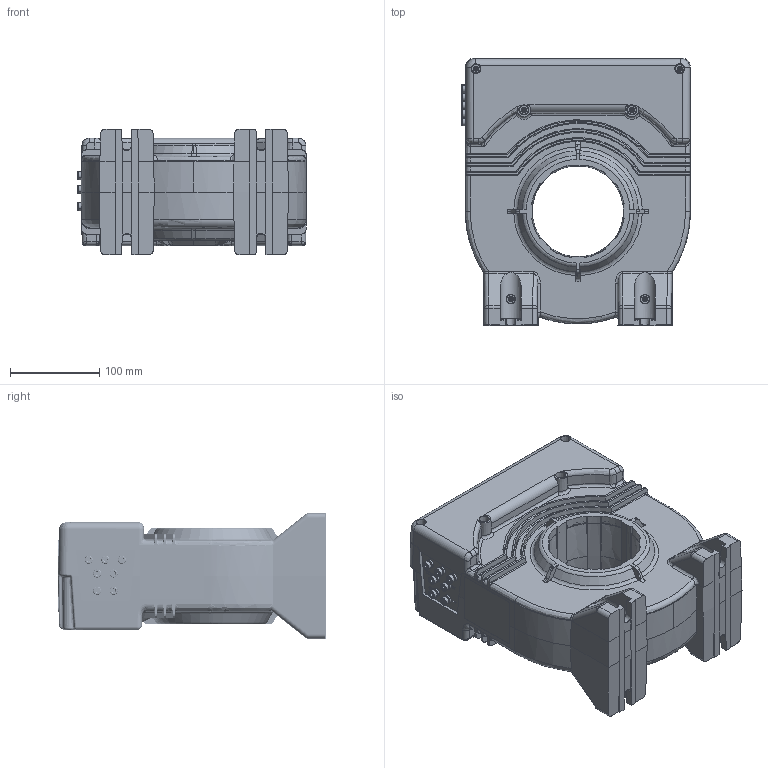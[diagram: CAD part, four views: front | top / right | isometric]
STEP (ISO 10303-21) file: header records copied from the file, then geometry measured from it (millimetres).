
FILE_DESCRIPTION(('CoCreate Modeling STEP Export'),'2;1');
FILE_NAME('ITC 4000-S black box.stp','2012-02-07T16:38:15',(''),(''),'CoCreate Modeling STEP processor for AP214 (Solid Model)','CoCreate Modeling 17.00A 17-Jun-2010 (C) Parametric Technology GmbH','');
FILE_SCHEMA(('AUTOMOTIVE_DESIGN { 1 0 10303 214 1 1 1 1 }'));
Products named in the file (12): PCB.1.black_box; inserted_screwi_KF2_M5.b; mesure; negatif; positif; valid; WASHER_M5.6; 0V1; sortie_test_winding; vis_CHc-M5x10.2; bornes_M5_Class0.5_test_winding_black_box; BLACK_BOX_ITC4000
Assembly tree (29 placements, depth 4):
  BLACK_BOX_ITC4000
    bornes_M5_Class0.5_test_winding_black_box
      WASHER_M5.6  x7
      vis_CHc-M5x10.2  x7
      sortie_test_winding
        inserted_screwi_KF2_M5.b  x2
      0V1
        inserted_screwi_KF2_M5.b
      valid
        inserted_screwi_KF2_M5.b
      positif
        inserted_screwi_KF2_M5.b
      negatif
        inserted_screwi_KF2_M5.b
      mesure
        inserted_screwi_KF2_M5.b
    PCB.1.black_box
Bounding box: 256.02 x 299.31 x 140 mm (x, y, z)
Volume: 1450005.6 mm3; surface area: 728657.5 mm2
Topology: 22 solids, 23 shells, 6846 faces, 19389 edges, 12649 vertices
Faces by surface type: plane 3329, cylinder 2318, bspline 482, cone 351, torus 322, extrusion 26, sphere 18
Entity records: 254171 total; most frequent: CARTESIAN_POINT 147907, ORIENTED_EDGE 24822, DIRECTION 17522, EDGE_CURVE 12411, VERTEX_POINT 8041, VECTOR 7040, LINE 7011, AXIS2_PLACEMENT_3D 5241
